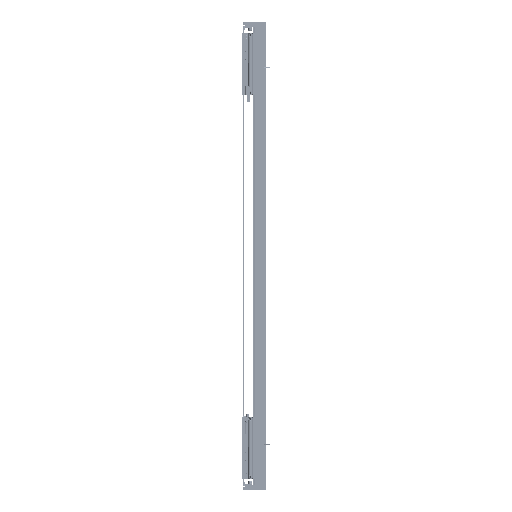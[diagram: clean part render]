
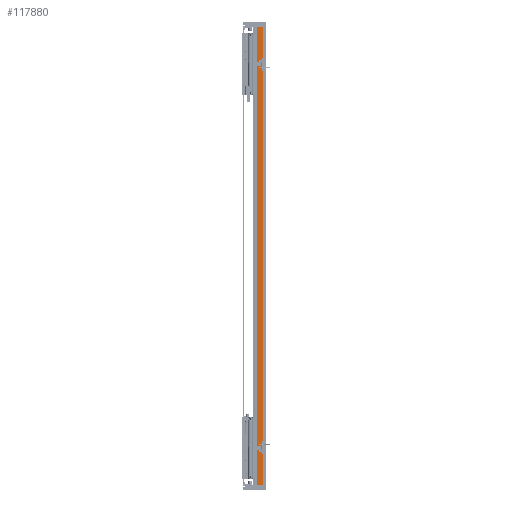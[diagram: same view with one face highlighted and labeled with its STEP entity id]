
A CAD part, left-side view. The second image highlights one B-rep face of the part: STEP entity #117880.
In plain terms, the highlighted planar face has unit normal (-1, 0, 0).
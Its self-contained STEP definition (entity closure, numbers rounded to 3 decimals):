
#1386 = EDGE_CURVE ( 'NONE', #108749, #123287, #7510, .T. ) ;
#7510 = LINE ( 'NONE', #49032, #116016 ) ;
#16389 = CARTESIAN_POINT ( 'NONE',  ( -82.5, 36.95, 930. ) ) ;
#17057 = PLANE ( 'NONE',  #54907 ) ;
#17161 = CARTESIAN_POINT ( 'NONE',  ( -82.5, 36.95, 930. ) ) ;
#17397 = DIRECTION ( 'NONE',  ( 0., 0., -1. ) ) ;
#18431 = DIRECTION ( 'NONE',  ( 0., -1., 0. ) ) ;
#18645 = CARTESIAN_POINT ( 'NONE',  ( -82.5, 36.95, -930. ) ) ;
#24727 = ORIENTED_EDGE ( 'NONE', *, *, #112950, .T. ) ;
#25423 = VECTOR ( 'NONE', #43460, 1000. ) ;
#30261 = ORIENTED_EDGE ( 'NONE', *, *, #1386, .F. ) ;
#38636 = VERTEX_POINT ( 'NONE', #46032 ) ;
#43460 = DIRECTION ( 'NONE',  ( 0., -1., 0. ) ) ;
#46032 = CARTESIAN_POINT ( 'NONE',  ( -82.5, 36.95, 930. ) ) ;
#49032 = CARTESIAN_POINT ( 'NONE',  ( -82.5, 14.45, 930. ) ) ;
#54907 = AXIS2_PLACEMENT_3D ( 'NONE', #16389, #76489, #95710 ) ;
#57300 = FACE_OUTER_BOUND ( 'NONE', #85673, .T. ) ;
#65539 = CARTESIAN_POINT ( 'NONE',  ( -82.5, 14.45, -930. ) ) ;
#70093 = ORIENTED_EDGE ( 'NONE', *, *, #127412, .F. ) ;
#73494 = VERTEX_POINT ( 'NONE', #103851 ) ;
#74626 = ORIENTED_EDGE ( 'NONE', *, *, #113933, .T. ) ;
#76489 = DIRECTION ( 'NONE',  ( 1., 0., 0. ) ) ;
#76827 = CARTESIAN_POINT ( 'NONE',  ( -82.5, 36.95, 930. ) ) ;
#80073 = DIRECTION ( 'NONE',  ( 0., 0., -1. ) ) ;
#82479 = LINE ( 'NONE', #18645, #25423 ) ;
#85673 = EDGE_LOOP ( 'NONE', ( #24727, #30261, #70093, #74626 ) ) ;
#95710 = DIRECTION ( 'NONE',  ( 0., 1., 0. ) ) ;
#98611 = LINE ( 'NONE', #76827, #99679 ) ;
#99679 = VECTOR ( 'NONE', #17397, 1000. ) ;
#103851 = CARTESIAN_POINT ( 'NONE',  ( -82.5, 36.95, -930. ) ) ;
#108749 = VERTEX_POINT ( 'NONE', #127902 ) ;
#112950 = EDGE_CURVE ( 'NONE', #73494, #123287, #82479, .T. ) ;
#113933 = EDGE_CURVE ( 'NONE', #38636, #73494, #98611, .T. ) ;
#116016 = VECTOR ( 'NONE', #80073, 1000. ) ;
#117880 = ADVANCED_FACE ( 'NONE', ( #57300 ), #17057, .F. ) ;
#118393 = VECTOR ( 'NONE', #18431, 1000. ) ;
#118825 = LINE ( 'NONE', #17161, #118393 ) ;
#123287 = VERTEX_POINT ( 'NONE', #65539 ) ;
#127412 = EDGE_CURVE ( 'NONE', #38636, #108749, #118825, .T. ) ;
#127902 = CARTESIAN_POINT ( 'NONE',  ( -82.5, 14.45, 930. ) ) ;
